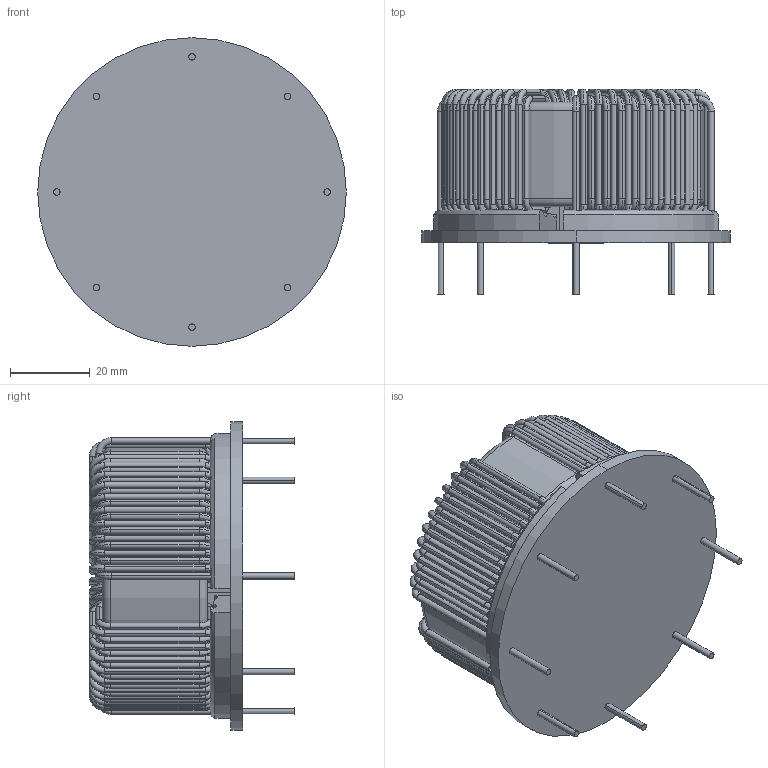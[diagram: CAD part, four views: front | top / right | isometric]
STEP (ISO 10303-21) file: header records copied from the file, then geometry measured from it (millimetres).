
FILE_DESCRIPTION (( 'STEP AP203' ), '1' );
FILE_NAME ('FPB-353U-B12A.STEP', '2020-08-28T04:59:47', ( 'Windows User' ), ( '' ), 'SwSTEP 2.0', 'SolidWorks 2015', '' );
FILE_SCHEMA (( 'CONFIG_CONTROL_DESIGN' ));
Length unit declared in the file: inch
Products named in the file (6): FPB-353U-B12A - COIL; FPB-353U-B12A - EPOXY; FPB-353U-B12A; FPB-353U-B12A - CORE; FPB-353U-B12A - SPACER; FPB-353U-B12A - FRAME
Assembly tree (5 placements, depth 2):
  FPB-353U-B12A
    FPB-353U-B12A - CORE
    FPB-353U-B12A - COIL
    FPB-353U-B12A - FRAME
    FPB-353U-B12A - SPACER
    FPB-353U-B12A - EPOXY
Bounding box: 77.6 x 51.69 x 77.6 mm (x, y, z)
Volume: 96072.1 mm3; surface area: 72397 mm2
Topology: 35 solids, 35 shells, 1580 faces, 4322 edges, 2788 vertices
Faces by surface type: cylinder 742, torus 664, bspline 92, plane 82
Entity records: 56842 total; most frequent: CARTESIAN_POINT 13686, DIRECTION 10526, ORIENTED_EDGE 8612, AXIS2_PLACEMENT_3D 4852, EDGE_CURVE 4306, CIRCLE 3356, VERTEX_POINT 2788, EDGE_LOOP 1598
